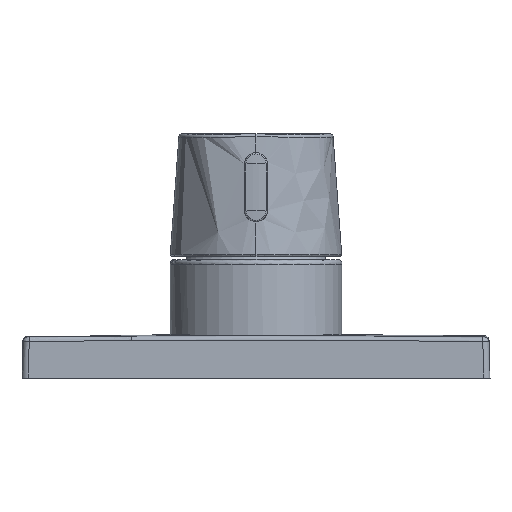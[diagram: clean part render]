
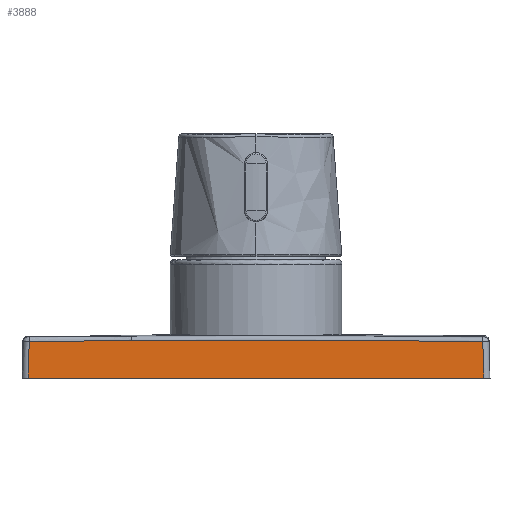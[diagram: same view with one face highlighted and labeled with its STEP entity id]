
A CAD part, front view. The second image highlights one B-rep face of the part: STEP entity #3888.
In plain terms, the highlighted planar face has unit normal (0, -1, 0.026).
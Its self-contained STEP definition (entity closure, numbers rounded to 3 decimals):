
#242 = AXIS2_PLACEMENT_3D ( 'NONE', #7838, #4450, #578 ) ;
#273 = CIRCLE ( 'NONE', #242, 6394.014 ) ;
#534 = DIRECTION ( 'NONE',  ( 1., 0., 0. ) ) ;
#578 = DIRECTION ( 'NONE',  ( -0.006, 0.026, 1. ) ) ;
#1152 = AXIS2_PLACEMENT_3D ( 'NONE', #1223, #3151, #7318 ) ;
#1223 = CARTESIAN_POINT ( 'NONE',  ( 0., -75., 0. ) ) ;
#1345 = EDGE_LOOP ( 'NONE', ( #2034, #2045, #2058, #2067, #2123 ) ) ;
#1430 = CARTESIAN_POINT ( 'NONE',  ( -72.841, -74.84, 6.11 ) ) ;
#1939 = DIRECTION ( 'NONE',  ( 0., 1., -0.026 ) ) ;
#2034 = ORIENTED_EDGE ( 'NONE', *, *, #5967, .F. ) ;
#2045 = ORIENTED_EDGE ( 'NONE', *, *, #4632, .T. ) ;
#2058 = ORIENTED_EDGE ( 'NONE', *, *, #5740, .F. ) ;
#2067 = ORIENTED_EDGE ( 'NONE', *, *, #2627, .F. ) ;
#2123 = ORIENTED_EDGE ( 'NONE', *, *, #7441, .F. ) ;
#2627 = EDGE_CURVE ( 'NONE', #7435, #7518, #273, .T. ) ;
#2742 = AXIS2_PLACEMENT_3D ( 'NONE', #5760, #1939, #6328 ) ;
#3151 = DIRECTION ( 'NONE',  ( 0., -1., 0.026 ) ) ;
#3230 = CARTESIAN_POINT ( 'NONE',  ( -39.982, -74.686, 11.996 ) ) ;
#3381 = DIRECTION ( 'NONE',  ( 0.026, 0.026, 0.999 ) ) ;
#3529 = CARTESIAN_POINT ( 'NONE',  ( -72.694, -74.693, 11.708 ) ) ;
#3572 = VERTEX_POINT ( 'NONE', #4043 ) ;
#3650 = CIRCLE ( 'NONE', #2742, 6393.977 ) ;
#3888 = ADVANCED_FACE ( 'NONE', ( #5252 ), #5668, .T. ) ;
#4004 = VECTOR ( 'NONE', #3381, 1000. ) ;
#4043 = CARTESIAN_POINT ( 'NONE',  ( 73.001, -75., 0. ) ) ;
#4098 = LINE ( 'NONE', #1430, #4004 ) ;
#4174 = VECTOR ( 'NONE', #6760, 1000. ) ;
#4384 = LINE ( 'NONE', #5663, #4174 ) ;
#4450 = DIRECTION ( 'NONE',  ( 0., 1., -0.026 ) ) ;
#4632 = EDGE_CURVE ( 'NONE', #7638, #3572, #4697, .T. ) ;
#4688 = VECTOR ( 'NONE', #534, 1000. ) ;
#4697 = LINE ( 'NONE', #5020, #4688 ) ;
#5020 = CARTESIAN_POINT ( 'NONE',  ( 0., -75., 0. ) ) ;
#5150 = CARTESIAN_POINT ( 'NONE',  ( 72.694, -74.693, 11.708 ) ) ;
#5252 = FACE_OUTER_BOUND ( 'NONE', #1345, .T. ) ;
#5591 = CARTESIAN_POINT ( 'NONE',  ( -73.001, -75., 0. ) ) ;
#5663 = CARTESIAN_POINT ( 'NONE',  ( 72.841, -74.84, 6.11 ) ) ;
#5668 = PLANE ( 'NONE',  #1152 ) ;
#5740 = EDGE_CURVE ( 'NONE', #7518, #3572, #4384, .T. ) ;
#5760 = CARTESIAN_POINT ( 'NONE',  ( 0., -242.057, -6379.665 ) ) ;
#5967 = EDGE_CURVE ( 'NONE', #7638, #6946, #4098, .T. ) ;
#6328 = DIRECTION ( 'NONE',  ( -0.011, 0.026, 1. ) ) ;
#6760 = DIRECTION ( 'NONE',  ( 0.026, -0.026, -0.999 ) ) ;
#6946 = VERTEX_POINT ( 'NONE', #3529 ) ;
#7318 = DIRECTION ( 'NONE',  ( -1., 0., 0. ) ) ;
#7435 = VERTEX_POINT ( 'NONE', #3230 ) ;
#7441 = EDGE_CURVE ( 'NONE', #6946, #7435, #3650, .T. ) ;
#7518 = VERTEX_POINT ( 'NONE', #5150 ) ;
#7638 = VERTEX_POINT ( 'NONE', #5591 ) ;
#7838 = CARTESIAN_POINT ( 'NONE',  ( 0., -242.058, -6379.702 ) ) ;
